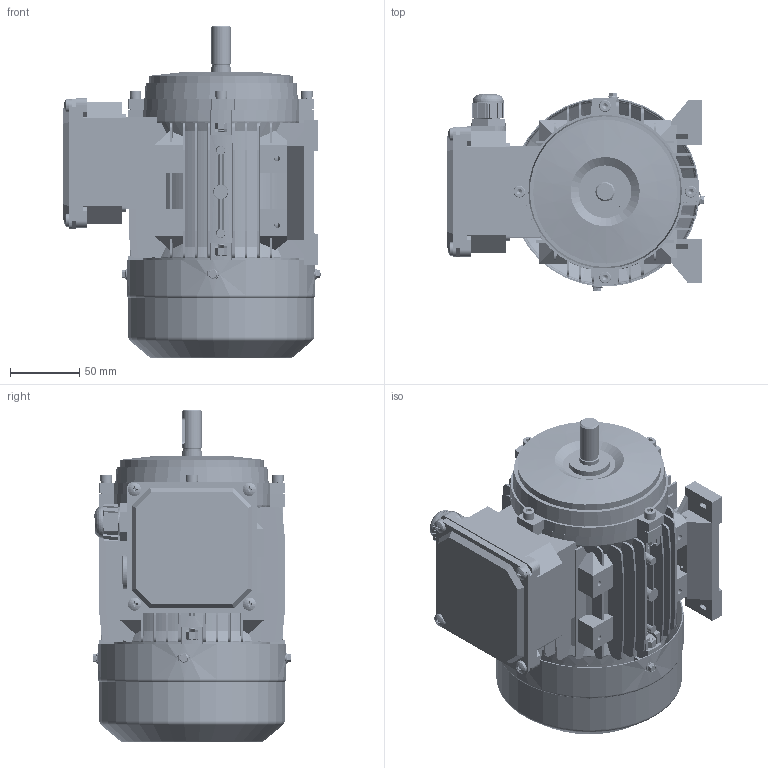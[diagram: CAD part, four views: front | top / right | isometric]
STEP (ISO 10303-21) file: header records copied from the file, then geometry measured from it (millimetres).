
FILE_DESCRIPTION (( 'STEP AP203' ), '1' );
FILE_NAME ('MS71S B3 3D蚾饜芞.STEP', '2024-06-01T08:50:34', ( 'User' ), ( 'China' ), 'SwSTEP 2.0', 'SolidWorks 2018', '' );
FILE_SCHEMA (( 'CONFIG_CONTROL_DESIGN' ));
Length unit declared in the file: millimetre
Products named in the file (23): hexagon socket head cap screws gb_GB_FASTENER_SCREWS_HSHCS M6X20-S; 蹟杶郋M20X1.5; 8.014.07101MS71B3傷裔; MS63-71諉盄碟菁釱; 蹟簸M20X1.5; 8.043.07101MS71菁褐; MS63-71諉盄碟裔; hexagon socket head cap screws gb_GB_FASTENER_SCREWS_HSHCS M5X25-S; hexagon socket head cap screw_as_AS 1420 - M5 x 25-S; MS71S B3 3D蚾饜芞; spring lock washers--normal type gb_GB_FASTENER_WASHER_SW 5; hexagon nut (grades c) as_AS 1112.3 C- M5-S; hex nuts, style 1-grades ab gb_GB_FASTENER_NUT_SNAB1 M5-N; 8.306.07101MS71邧脯瑞欶; 蚐猾25X14X4; hex washer head screw_as_AS-NZS 1427 HW - M4 x 6-N; 8.034.07101MS71 S儂褲; 黑芛20X1.5; pan cross head screw_as_AS-NZS 1427 PC- M4 x 8-S; 8.013.07102MS71綴傷裔; spring lock washers--normal type gb_GB_FASTENER_WASHER_SW 6; pan cross head screw_as_AS-NZS 1427 PC- M5 x 8-S; 8.200.07101MS71 S蛌粣
Assembly tree (52 placements, depth 2):
  MS71S B3 3D蚾饜芞
    8.034.07101MS71 S儂褲
    8.013.07102MS71綴傷裔
    8.200.07101MS71 S蛌粣
    8.014.07101MS71B3傷裔
    8.043.07101MS71菁褐  x2
    hexagon socket head cap screw_as_AS 1420 - M5 x 25-S  x4
    hexagon nut (grades c) as_AS 1112.3 C- M5-S  x4
    8.306.07101MS71邧脯瑞欶
    hex washer head screw_as_AS-NZS 1427 HW - M4 x 6-N  x4
    pan cross head screw_as_AS-NZS 1427 PC- M4 x 8-S  x4
    pan cross head screw_as_AS-NZS 1427 PC- M5 x 8-S  x4
    蹟杶郋M20X1.5
    蹟簸M20X1.5
    hexagon socket head cap screws gb_GB_FASTENER_SCREWS_HSHCS M5X25-S  x4
    spring lock washers--normal type gb_GB_FASTENER_WASHER_SW 5  x4
    hex nuts, style 1-grades ab gb_GB_FASTENER_NUT_SNAB1 M5-N  x3
    蚐猾25X14X4
    黑芛20X1.5
    spring lock washers--normal type gb_GB_FASTENER_WASHER_SW 6  x4
    hexagon socket head cap screws gb_GB_FASTENER_SCREWS_HSHCS M6X20-S  x4
    MS63-71諉盄碟菁釱
    MS63-71諉盄碟裔
Bounding box: 185.9 x 143.8 x 240.1 mm (x, y, z)
Volume: 644167.5 mm3; surface area: 470281.1 mm2
Topology: 52 solids, 67 shells, 6897 faces, 16310 edges, 9618 vertices
Faces by surface type: cone 2501, plane 2343, cylinder 1783, bspline 146, torus 108, sphere 16
Entity records: 136549 total; most frequent: CARTESIAN_POINT 43350, ORIENTED_EDGE 19480, DIRECTION 17658, EDGE_CURVE 9740, VERTEX_POINT 6160, AXIS2_PLACEMENT_3D 5981, LINE 5696, VECTOR 5696
